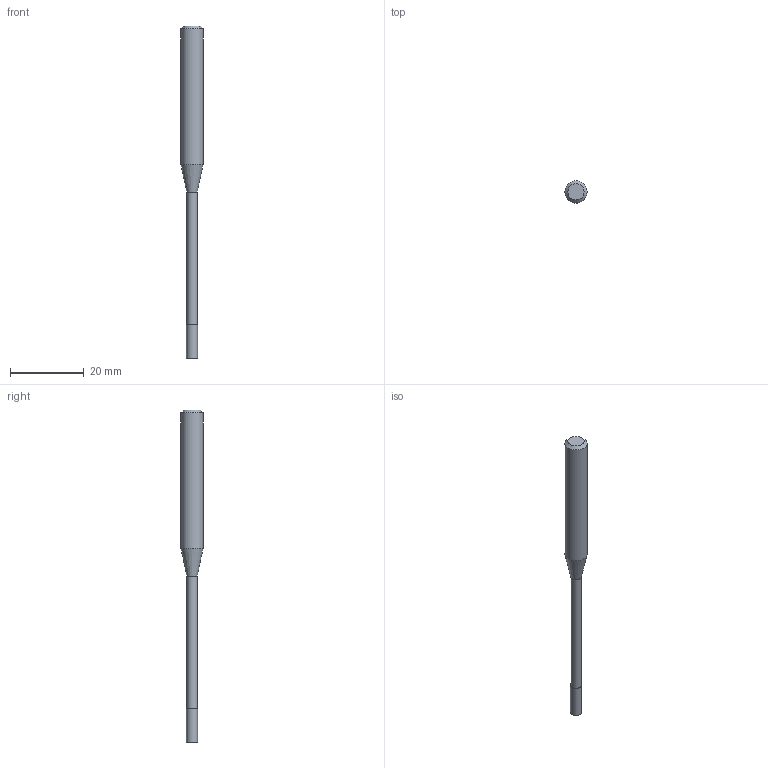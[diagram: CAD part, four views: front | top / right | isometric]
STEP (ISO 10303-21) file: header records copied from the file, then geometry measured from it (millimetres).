
FILE_DESCRIPTION((''),'2;1');
FILE_NAME('C:\Users\nsx150\Desktop\RSE230_20210427\01-00644-03045 RSE230 D3X9X45.step','2021-05-07T14:54:02',(''),(''),'STEP Write','Mastercam 2021 ... CNC Software, Inc.','');
FILE_SCHEMA(('AUTOMOTIVE_DESIGN'));
Length unit declared in the file: millimetre
Products named in the file (1): None
Bounding box: 6 x 6 x 90 mm (x, y, z)
Volume: 1469.4 mm3; surface area: 1260.1 mm2
Topology: 2 solids, 2 shells, 9 faces, 12 edges, 7 vertices
Faces by surface type: plane 4, cylinder 3, cone 2
Full cylindrical faces by diameter (mm): 2.85 x1, 3 x1, 6 x1
Entity records: 211 total; most frequent: DIRECTION 36, CARTESIAN_POINT 25, AXIS2_PLACEMENT_3D 18, ORIENTED_EDGE 14, EDGE_LOOP 14, STYLED_ITEM 12, ADVANCED_FACE 9, FACE_BOUND 8
